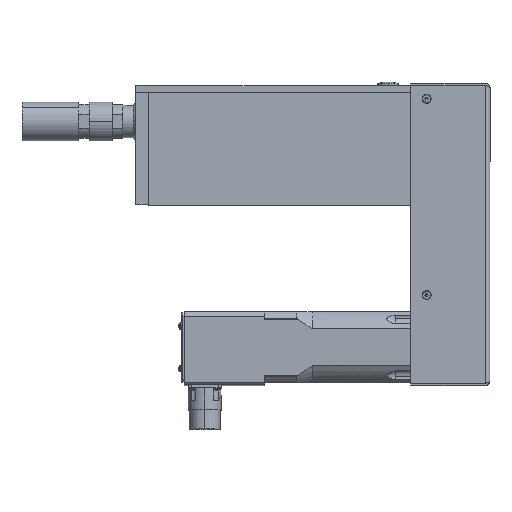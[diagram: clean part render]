
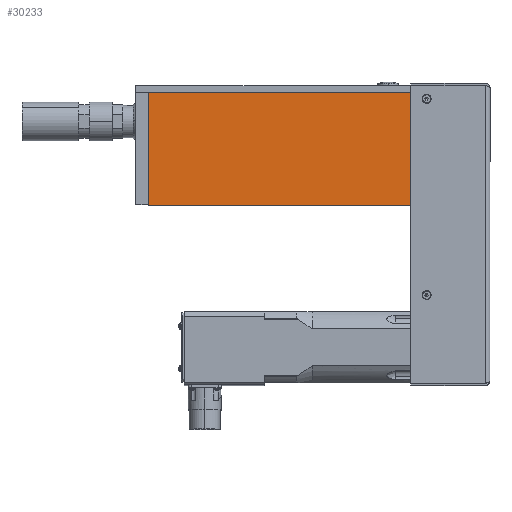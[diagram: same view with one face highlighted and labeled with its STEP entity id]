
A CAD part, top view. The second image highlights one B-rep face of the part: STEP entity #30233.
In plain terms, the highlighted planar face has unit normal (0, 0, 1).
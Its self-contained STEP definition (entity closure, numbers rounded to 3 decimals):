
#482 = PLANE ( 'NONE',  #59656 ) ;
#5450 = CARTESIAN_POINT ( 'NONE',  ( 106.999, -28.121, 45.682 ) ) ;
#6322 = VERTEX_POINT ( 'NONE', #43636 ) ;
#8499 = ORIENTED_EDGE ( 'NONE', *, *, #62803, .T. ) ;
#10450 = VECTOR ( 'NONE', #44515, 1000. ) ;
#13104 = CARTESIAN_POINT ( 'NONE',  ( 106.999, -28.121, 45.682 ) ) ;
#15275 = CARTESIAN_POINT ( 'NONE',  ( -96.001, 59.379, 45.682 ) ) ;
#15336 = EDGE_CURVE ( 'NONE', #54778, #17452, #19191, .T. ) ;
#17452 = VERTEX_POINT ( 'NONE', #58481 ) ;
#17573 = CARTESIAN_POINT ( 'NONE',  ( -96.001, 59.379, 45.682 ) ) ;
#19191 = LINE ( 'NONE', #54775, #21524 ) ;
#21524 = VECTOR ( 'NONE', #40334, 1000. ) ;
#25133 = ORIENTED_EDGE ( 'NONE', *, *, #15336, .T. ) ;
#26735 = VERTEX_POINT ( 'NONE', #13104 ) ;
#28919 = LINE ( 'NONE', #32313, #45845 ) ;
#30233 = ADVANCED_FACE ( 'NONE', ( #38835 ), #482, .F. ) ;
#32313 = CARTESIAN_POINT ( 'NONE',  ( -96.001, -28.121, 45.682 ) ) ;
#33684 = DIRECTION ( 'NONE',  ( -1., 0., 0. ) ) ;
#35344 = VECTOR ( 'NONE', #33684, 1000. ) ;
#38631 = CARTESIAN_POINT ( 'NONE',  ( -96.001, 59.379, 45.682 ) ) ;
#38835 = FACE_OUTER_BOUND ( 'NONE', #59490, .T. ) ;
#40334 = DIRECTION ( 'NONE',  ( 0., -1., 0. ) ) ;
#42553 = ORIENTED_EDGE ( 'NONE', *, *, #48909, .T. ) ;
#43636 = CARTESIAN_POINT ( 'NONE',  ( 106.999, 59.379, 45.682 ) ) ;
#43814 = ORIENTED_EDGE ( 'NONE', *, *, #46376, .T. ) ;
#44515 = DIRECTION ( 'NONE',  ( 0., 1., 0. ) ) ;
#44883 = DIRECTION ( 'NONE',  ( -1., 0., 0. ) ) ;
#45305 = DIRECTION ( 'NONE',  ( 0., 0., -1. ) ) ;
#45845 = VECTOR ( 'NONE', #52743, 1000. ) ;
#46376 = EDGE_CURVE ( 'NONE', #6322, #54778, #61470, .T. ) ;
#48909 = EDGE_CURVE ( 'NONE', #17452, #26735, #28919, .T. ) ;
#52743 = DIRECTION ( 'NONE',  ( 1., 0., 0. ) ) ;
#54775 = CARTESIAN_POINT ( 'NONE',  ( -96.001, -28.121, 45.682 ) ) ;
#54778 = VERTEX_POINT ( 'NONE', #17573 ) ;
#58481 = CARTESIAN_POINT ( 'NONE',  ( -96.001, -28.121, 45.682 ) ) ;
#59490 = EDGE_LOOP ( 'NONE', ( #25133, #42553, #8499, #43814 ) ) ;
#59656 = AXIS2_PLACEMENT_3D ( 'NONE', #15275, #45305, #44883 ) ;
#61470 = LINE ( 'NONE', #38631, #35344 ) ;
#61832 = LINE ( 'NONE', #5450, #10450 ) ;
#62803 = EDGE_CURVE ( 'NONE', #26735, #6322, #61832, .T. ) ;
